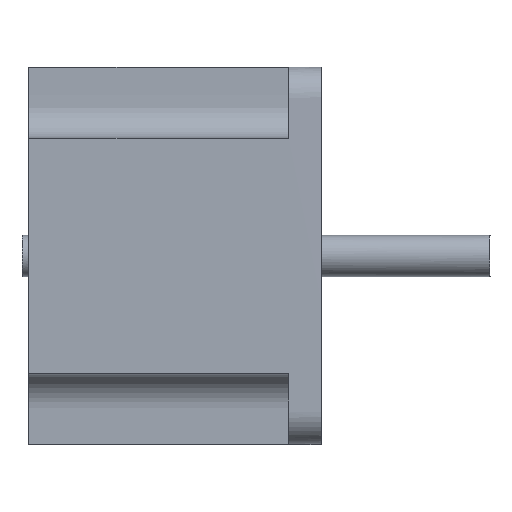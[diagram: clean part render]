
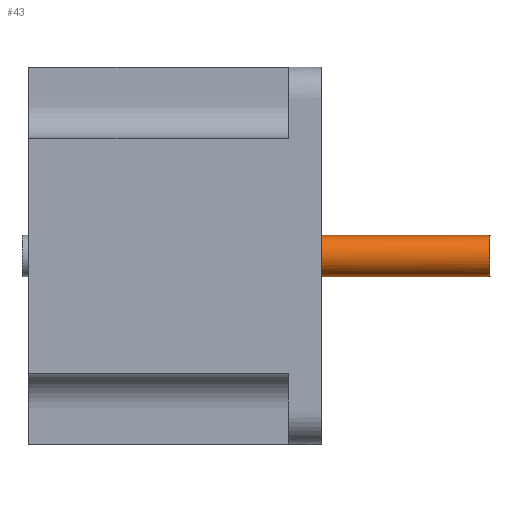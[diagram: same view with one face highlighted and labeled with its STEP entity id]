
A CAD part, top view. The second image highlights one B-rep face of the part: STEP entity #43.
In plain terms, the highlighted free-form (B-spline) face has degree [1, 2] with [2, 9] control points.
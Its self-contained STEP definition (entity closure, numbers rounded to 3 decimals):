
#43=ADVANCED_FACE('',(#61),#574,.T.);
#61=FACE_OUTER_BOUND('',#81,.T.);
#81=EDGE_LOOP('',(#162,#163,#164,#165));
#162=ORIENTED_EDGE('',*,*,#504,.F.);
#163=ORIENTED_EDGE('',*,*,#472,.F.);
#164=ORIENTED_EDGE('',*,*,#503,.F.);
#165=ORIENTED_EDGE('',*,*,#464,.F.);
#171=B_SPLINE_CURVE_WITH_KNOTS('',3,(#962,#963,#964,#965,#966,#967,#968,
#969,#970,#971,#972,#973,#974),.UNSPECIFIED.,.F.,.F.,(4,3,3,3,4),(0.,2.494,
4.987,7.481,9.975),.UNSPECIFIED.);
#229=B_SPLINE_CURVE_WITH_KNOTS('',1,(#1814,#1815),.UNSPECIFIED.,.F.,.F.,
(2,2),(0.,29.222),.UNSPECIFIED.);
#230=B_SPLINE_CURVE_WITH_KNOTS('',1,(#1816,#1817),.UNSPECIFIED.,.F.,.F.,
(2,2),(0.,29.222),.UNSPECIFIED.);
#232=B_SPLINE_CURVE_WITH_KNOTS('',1,(#1822,#1823),.UNSPECIFIED.,.F.,.F.,
(2,2),(-29.222,0.),.UNSPECIFIED.);
#249=B_SPLINE_CURVE_WITH_KNOTS('',1,(#1856,#1857),.UNSPECIFIED.,.F.,.F.,
(2,2),(-29.222,0.),.UNSPECIFIED.);
#250=B_SPLINE_CURVE_WITH_KNOTS('',1,(#1858,#1859),.UNSPECIFIED.,.F.,.F.,
(2,2),(0.,9.975),.UNSPECIFIED.);
#251=B_SPLINE_CURVE_WITH_KNOTS('',1,(#1860,#1861),.UNSPECIFIED.,.F.,.F.,
(2,2),(0.,29.222),.UNSPECIFIED.);
#252=B_SPLINE_CURVE_WITH_KNOTS('',1,(#1862,#1863),.UNSPECIFIED.,.F.,.F.,
(2,2),(-9.975,0.),.UNSPECIFIED.);
#254=PCURVE('',#582,#338);
#263=PCURVE('',#584,#347);
#314=PCURVE('',#572,#398);
#316=PCURVE('',#572,#400);
#333=PCURVE('',#574,#417);
#334=PCURVE('',#574,#418);
#335=PCURVE('',#574,#419);
#336=PCURVE('',#574,#420);
#338=DEFINITIONAL_REPRESENTATION('',(#508),#1865);
#347=DEFINITIONAL_REPRESENTATION('',(#171),#1865);
#398=DEFINITIONAL_REPRESENTATION('',(#230),#1865);
#400=DEFINITIONAL_REPRESENTATION('',(#232),#1865);
#417=DEFINITIONAL_REPRESENTATION('',(#249),#1865);
#418=DEFINITIONAL_REPRESENTATION('',(#250),#1865);
#419=DEFINITIONAL_REPRESENTATION('',(#251),#1865);
#420=DEFINITIONAL_REPRESENTATION('',(#252),#1865);
#422=SURFACE_CURVE('',#507,(#254,#336),.PCURVE_S1.);
#430=SURFACE_CURVE('',#519,(#263,#334),.PCURVE_S1.);
#461=SURFACE_CURVE('',#229,(#314,#335),.PCURVE_S1.);
#462=SURFACE_CURVE('',#543,(#316,#333),.PCURVE_S1.);
#464=EDGE_CURVE('',#570,#544,#422,.T.);
#472=EDGE_CURVE('',#564,#571,#430,.T.);
#503=EDGE_CURVE('',#544,#564,#461,.T.);
#504=EDGE_CURVE('',#571,#570,#462,.T.);
#507=(
BOUNDED_CURVE()
B_SPLINE_CURVE(2,(#874,#875,#876,#877,#878),.UNSPECIFIED.,.F.,.F.)
B_SPLINE_CURVE_WITH_KNOTS((3,2,3),(-9.975,-4.987,0.),
 .UNSPECIFIED.)
CURVE()
GEOMETRIC_REPRESENTATION_ITEM()
RATIONAL_B_SPLINE_CURVE((1.,0.707,1.,0.707,1.))
REPRESENTATION_ITEM('')
);
#508=(
BOUNDED_CURVE()
B_SPLINE_CURVE(2,(#879,#880,#881,#882,#883),.UNSPECIFIED.,.F.,.F.)
B_SPLINE_CURVE_WITH_KNOTS((3,2,3),(-9.975,-4.987,0.),
 .UNSPECIFIED.)
CURVE()
GEOMETRIC_REPRESENTATION_ITEM()
RATIONAL_B_SPLINE_CURVE((1.,0.707,1.,0.707,1.))
REPRESENTATION_ITEM('')
);
#519=(
BOUNDED_CURVE()
B_SPLINE_CURVE(2,(#957,#958,#959,#960,#961),.UNSPECIFIED.,.F.,.F.)
B_SPLINE_CURVE_WITH_KNOTS((3,2,3),(0.,4.987,9.975),
 .UNSPECIFIED.)
CURVE()
GEOMETRIC_REPRESENTATION_ITEM()
RATIONAL_B_SPLINE_CURVE((1.,0.707,1.,0.707,1.))
REPRESENTATION_ITEM('')
);
#543=(
BOUNDED_CURVE()
B_SPLINE_CURVE(1,(#1820,#1821),.UNSPECIFIED.,.F.,.F.)
B_SPLINE_CURVE_WITH_KNOTS((2,2),(-29.222,0.),.UNSPECIFIED.)
CURVE()
GEOMETRIC_REPRESENTATION_ITEM()
RATIONAL_B_SPLINE_CURVE((1.,1.))
REPRESENTATION_ITEM('')
);
#544=VERTEX_POINT('',#836);
#564=VERTEX_POINT('',#856);
#570=VERTEX_POINT('',#862);
#571=VERTEX_POINT('',#863);
#572=(
BOUNDED_SURFACE()
B_SPLINE_SURFACE(1,2,((#633,#634,#635,#636,#637,#638,#639,#640,#641),(#642,
#643,#644,#645,#646,#647,#648,#649,#650)),.UNSPECIFIED.,.F.,.F.,.F.)
B_SPLINE_SURFACE_WITH_KNOTS((2,2),(3,2,2,2,3),(0.,81.),(-19.949,
-14.962,-9.975,-4.987,0.),.UNSPECIFIED.)
GEOMETRIC_REPRESENTATION_ITEM()
RATIONAL_B_SPLINE_SURFACE(((1.,0.707,1.,0.707,1.,
0.707,1.,0.707,1.),(1.,0.707,1.,0.707,
1.,0.707,1.,0.707,1.)))
REPRESENTATION_ITEM('')
SURFACE()
);
#574=(
BOUNDED_SURFACE()
B_SPLINE_SURFACE(1,2,((#670,#671,#672,#673,#674,#675,#676,#677,#678),(#679,
#680,#681,#682,#683,#684,#685,#686,#687)),.UNSPECIFIED.,.F.,.F.,.F.)
B_SPLINE_SURFACE_WITH_KNOTS((2,2),(3,2,2,2,3),(0.,81.),(-19.949,
-14.962,-9.975,-4.987,0.),.UNSPECIFIED.)
GEOMETRIC_REPRESENTATION_ITEM()
RATIONAL_B_SPLINE_SURFACE(((1.,0.707,1.,0.707,1.,
0.707,1.,0.707,1.),(1.,0.707,1.,0.707,
1.,0.707,1.,0.707,1.)))
REPRESENTATION_ITEM('')
SURFACE()
);
#582=PLANE('',#610);
#584=PLANE('',#612);
#610=AXIS2_PLACEMENT_3D('',#632,#621,$);
#612=AXIS2_PLACEMENT_3D('',#688,#623,$);
#621=DIRECTION('',(1.,0.,0.));
#623=DIRECTION('',(1.,0.,0.));
#632=CARTESIAN_POINT('',(0.,288.175,-73.175));
#633=CARTESIAN_POINT('',(0.,281.825,-70.));
#634=CARTESIAN_POINT('',(0.,281.825,-73.175));
#635=CARTESIAN_POINT('',(0.,285.,-73.175));
#636=CARTESIAN_POINT('',(0.,288.175,-73.175));
#637=CARTESIAN_POINT('',(0.,288.175,-70.));
#638=CARTESIAN_POINT('',(0.,288.175,-66.825));
#639=CARTESIAN_POINT('',(0.,285.,-66.825));
#640=CARTESIAN_POINT('',(0.,281.825,-66.825));
#641=CARTESIAN_POINT('',(0.,281.825,-70.));
#642=CARTESIAN_POINT('',(-72.,281.825,-70.));
#643=CARTESIAN_POINT('',(-72.,281.825,-73.175));
#644=CARTESIAN_POINT('',(-72.,285.,-73.175));
#645=CARTESIAN_POINT('',(-72.,288.175,-73.175));
#646=CARTESIAN_POINT('',(-72.,288.175,-70.));
#647=CARTESIAN_POINT('',(-72.,288.175,-66.825));
#648=CARTESIAN_POINT('',(-72.,285.,-66.825));
#649=CARTESIAN_POINT('',(-72.,281.825,-66.825));
#650=CARTESIAN_POINT('',(-72.,281.825,-70.));
#670=CARTESIAN_POINT('',(0.,281.825,-70.));
#671=CARTESIAN_POINT('',(0.,281.825,-73.175));
#672=CARTESIAN_POINT('',(0.,285.,-73.175));
#673=CARTESIAN_POINT('',(0.,288.175,-73.175));
#674=CARTESIAN_POINT('',(0.,288.175,-70.));
#675=CARTESIAN_POINT('',(0.,288.175,-66.825));
#676=CARTESIAN_POINT('',(0.,285.,-66.825));
#677=CARTESIAN_POINT('',(0.,281.825,-66.825));
#678=CARTESIAN_POINT('',(0.,281.825,-70.));
#679=CARTESIAN_POINT('',(-72.,281.825,-70.));
#680=CARTESIAN_POINT('',(-72.,281.825,-73.175));
#681=CARTESIAN_POINT('',(-72.,285.,-73.175));
#682=CARTESIAN_POINT('',(-72.,288.175,-73.175));
#683=CARTESIAN_POINT('',(-72.,288.175,-70.));
#684=CARTESIAN_POINT('',(-72.,288.175,-66.825));
#685=CARTESIAN_POINT('',(-72.,285.,-66.825));
#686=CARTESIAN_POINT('',(-72.,281.825,-66.825));
#687=CARTESIAN_POINT('',(-72.,281.825,-70.));
#688=CARTESIAN_POINT('',(-25.975,314.,-99.));
#836=CARTESIAN_POINT('',(0.,281.825,-70.));
#856=CARTESIAN_POINT('',(-25.975,281.825,-70.));
#862=CARTESIAN_POINT('',(0.,288.175,-70.));
#863=CARTESIAN_POINT('',(-25.975,288.175,-70.));
#874=CARTESIAN_POINT('',(0.,288.175,-70.));
#875=CARTESIAN_POINT('',(0.,288.175,-66.825));
#876=CARTESIAN_POINT('',(0.,285.,-66.825));
#877=CARTESIAN_POINT('',(0.,281.825,-66.825));
#878=CARTESIAN_POINT('',(0.,281.825,-70.));
#879=CARTESIAN_POINT('',(0.,-6.35));
#880=CARTESIAN_POINT('',(3.175,-6.35));
#881=CARTESIAN_POINT('',(3.175,-3.175));
#882=CARTESIAN_POINT('',(3.175,0.));
#883=CARTESIAN_POINT('',(0.,0.));
#957=CARTESIAN_POINT('',(-25.975,281.825,-70.));
#958=CARTESIAN_POINT('',(-25.975,281.825,-66.825));
#959=CARTESIAN_POINT('',(-25.975,285.,-66.825));
#960=CARTESIAN_POINT('',(-25.975,288.175,-66.825));
#961=CARTESIAN_POINT('',(-25.975,288.175,-70.));
#962=CARTESIAN_POINT('',(24.,32.175));
#963=CARTESIAN_POINT('',(24.842,32.175));
#964=CARTESIAN_POINT('',(25.65,31.84));
#965=CARTESIAN_POINT('',(26.245,31.245));
#966=CARTESIAN_POINT('',(26.84,30.65));
#967=CARTESIAN_POINT('',(27.175,29.842));
#968=CARTESIAN_POINT('',(27.175,29.));
#969=CARTESIAN_POINT('',(27.175,28.158));
#970=CARTESIAN_POINT('',(26.84,27.35));
#971=CARTESIAN_POINT('',(26.245,26.755));
#972=CARTESIAN_POINT('',(25.65,26.16));
#973=CARTESIAN_POINT('',(24.842,25.825));
#974=CARTESIAN_POINT('',(24.,25.825));
#1814=CARTESIAN_POINT('',(0.,281.825,-70.));
#1815=CARTESIAN_POINT('',(-25.975,281.825,-70.));
#1816=CARTESIAN_POINT('',(0.,-19.949));
#1817=CARTESIAN_POINT('',(29.222,-19.949));
#1820=CARTESIAN_POINT('',(-25.975,288.175,-70.));
#1821=CARTESIAN_POINT('',(0.,288.175,-70.));
#1822=CARTESIAN_POINT('',(29.222,-9.975));
#1823=CARTESIAN_POINT('',(0.,-9.975));
#1856=CARTESIAN_POINT('',(29.222,-9.975));
#1857=CARTESIAN_POINT('',(0.,-9.975));
#1858=CARTESIAN_POINT('',(29.222,0.));
#1859=CARTESIAN_POINT('',(29.222,-9.975));
#1860=CARTESIAN_POINT('',(0.,0.));
#1861=CARTESIAN_POINT('',(29.222,0.));
#1862=CARTESIAN_POINT('',(0.,-9.975));
#1863=CARTESIAN_POINT('',(0.,0.));
#1865=(
GEOMETRIC_REPRESENTATION_CONTEXT(2)
PARAMETRIC_REPRESENTATION_CONTEXT()
REPRESENTATION_CONTEXT('pspace','')
);
